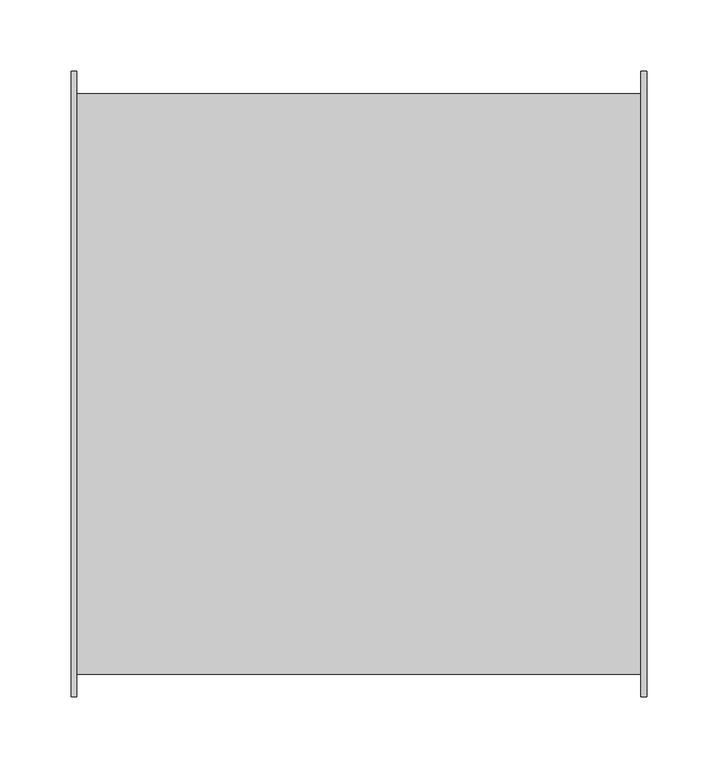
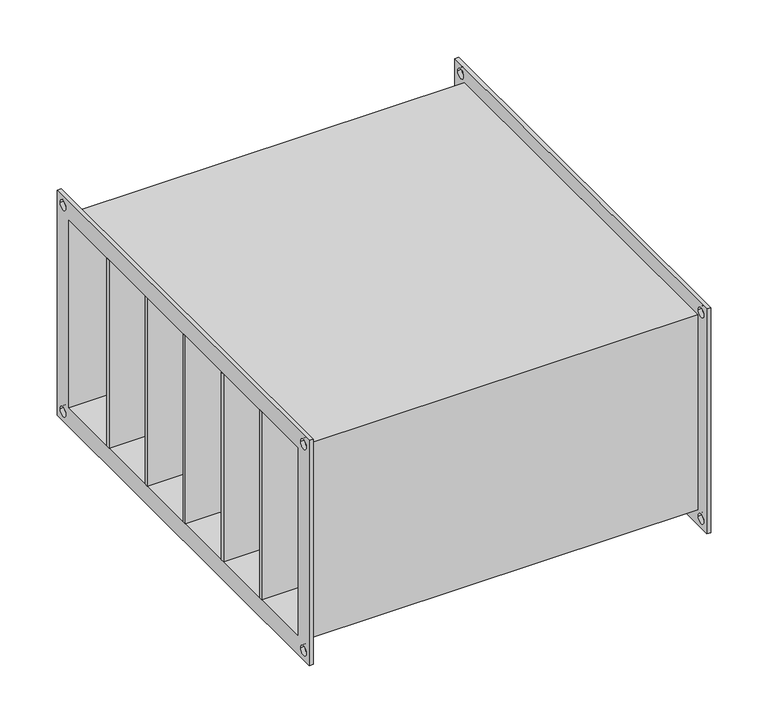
"""IFC4 building model written with IfcOpenShell, lengths in millimetres: damper geometry, СВ_ФильтрКарманныйУкороченный_КанальныйПрямоугольный_200-1000_SFPKU : SFPKU-400x200."""

import ifcopenshell
import ifcopenshell.guid

model = None  # the IFC model being written
_history = None  # IfcOwnerHistory: only IFC2X3 demands one
_inside = {}  # id of a spatial element -> (the spatial element, [elements in it])
_under = {}  # id of a project, library or spatial element -> (it, [spatial elements below it])
_declared = {}  # id of a project -> (the project, [libraries it declares])
_typed = {}  # id of a type object -> (the type object, [elements of that type])
_made_of = {}  # id of a material, layer set ... -> (it, [elements and type objects made of it])


def new_model(schema):
    """Start an empty IFC model of exactly this schema.

    Asked for "IFC4X3", IfcOpenShell would pick the latest addendum, in which some entities
    have other attributes; the version numbers below select the first issue.
    IFC2X3 requires an IfcOwnerHistory on every rooted entity: one is made here for all.
    """
    global model, _history
    if schema == "IFC4X3":
        model = ifcopenshell.file(schema_version=(4, 3, 0, 0))
    else:
        model = ifcopenshell.file(schema=schema)
    _inside.clear()
    _under.clear()
    _declared.clear()
    _typed.clear()
    _made_of.clear()
    _history = None
    if model.schema == "IFC2X3":
        org = make("IfcOrganization", Name="unknown")
        user = make(
            "IfcPersonAndOrganization",
            ThePerson=make("IfcPerson", FamilyName="unknown"),
            TheOrganization=org,
        )
        app = make(
            "IfcApplication",
            ApplicationDeveloper=org,
            Version="unknown",
            ApplicationFullName="unknown",
            ApplicationIdentifier="unknown",
        )
        _history = make(
            "IfcOwnerHistory",
            OwningUser=user,
            OwningApplication=app,
            ChangeAction="ADDED",
            CreationDate=0,
        )
    return model


def make(cls, **values):
    """One entity of the class cls with the attributes given. An attribute that is None is left unset."""
    return model.create_entity(
        cls, **{name: value for name, value in values.items() if value is not None}
    )


def rooted(cls, **values):
    """An entity with a GlobalId (a new one), such as an element, a storey or a relation."""
    return make(cls, GlobalId=ifcopenshell.guid.new(), OwnerHistory=_history, **values)


def si_unit(unit_type, name, prefix=None):
    """IfcSIUnit, for example si_unit("LENGTHUNIT", "METRE", prefix="MILLI")."""
    return make("IfcSIUnit", UnitType=unit_type, Prefix=prefix, Name=name)


def assignment(units):
    """IfcUnitAssignment: the units of a project."""
    return None if units is None else make("IfcUnitAssignment", Units=units)


def point(xyz):
    """IfcCartesianPoint."""
    return None if xyz is None else make("IfcCartesianPoint", Coordinates=xyz)


def direction(xyz):
    """IfcDirection."""
    return None if xyz is None else make("IfcDirection", DirectionRatios=xyz)


def frame(location, z_axis=None, x_axis=None):
    """IfcAxis2Placement3D, a coordinate frame: its origin and axes. An axis left out is left unset."""
    return make(
        "IfcAxis2Placement3D",
        Location=point(location),
        Axis=direction(z_axis),
        RefDirection=direction(x_axis),
    )


def origin():
    """The frame at (0, 0, 0) with its axes left unset."""
    return frame((0.0, 0.0, 0.0))


def place(relative_to, where):
    """IfcLocalPlacement: puts the frame where relative to a parent placement (None: the world)."""
    return make(
        "IfcLocalPlacement", PlacementRelTo=relative_to, RelativePlacement=where
    )


def context(
    kind, dimensions, precision=None, world=None, true_north=None, identifier=None
):
    """IfcGeometricRepresentationContext, for example the 3D "Model" context."""
    return make(
        "IfcGeometricRepresentationContext",
        ContextIdentifier=identifier,
        ContextType=kind,
        CoordinateSpaceDimension=dimensions,
        Precision=precision,
        WorldCoordinateSystem=world,
        TrueNorth=true_north,
    )


def project(units=None, contexts=None):
    """IfcProject with its units and contexts."""
    return rooted(
        "IfcProject",
        Name="project",
        RepresentationContexts=contexts,
        UnitsInContext=assignment(units),
    )


def spatial(cls, under=None, at=None, **own):
    """A site, building, storey or space (cls), placed at a placement, below another one or the project."""
    s = rooted(cls, ObjectPlacement=at, **own)
    if under is not None:
        _under.setdefault(under.id(), (under, []))[1].append(s)
    return s


def polyline(points):
    """IfcPolyline through the points."""
    return make("IfcPolyline", Points=[point(p) for p in points])


def circle_curve(where, radius):
    """IfcCircle in the frame where."""
    return make("IfcCircle", Position=where, Radius=radius)


def outline(outer, holes=None, kind="AREA"):
    """IfcArbitraryClosedProfileDef: a profile drawn as a closed curve; with holes, ...WithVoids."""
    if holes is None:
        return make("IfcArbitraryClosedProfileDef", ProfileType=kind, OuterCurve=outer)
    return make(
        "IfcArbitraryProfileDefWithVoids",
        ProfileType=kind,
        OuterCurve=outer,
        InnerCurves=holes,
    )


def extrude(swept, where, along, depth):
    """IfcExtrudedAreaSolid: the profile swept, set in the frame where, extruded along a direction by depth."""
    return make(
        "IfcExtrudedAreaSolid",
        SweptArea=swept,
        Position=where,
        ExtrudedDirection=direction(along),
        Depth=depth,
    )


def shape(context_of_items, identifier, shape_type, items):
    """IfcShapeRepresentation: the items that make up one representation, for example the "Body"."""
    return make(
        "IfcShapeRepresentation",
        ContextOfItems=context_of_items,
        RepresentationIdentifier=identifier,
        RepresentationType=shape_type,
        Items=items,
    )


def source(mapping_origin, context_of_items, identifier, shape_type, items):
    """IfcRepresentationMap: a shape defined once, which mapped items show again and again."""
    return make(
        "IfcRepresentationMap",
        MappingOrigin=mapping_origin,
        MappedRepresentation=shape(context_of_items, identifier, shape_type, items),
    )


def transform(
    local_origin,
    x_axis=None,
    y_axis=None,
    z_axis=None,
    scale=None,
    scale2=None,
    scale3=None,
    uniform=True,
):
    """IfcCartesianTransformationOperator3D, or its non-uniform kind. x_axis, y_axis, z_axis: its Axis1, 2, 3."""
    if uniform:
        return make(
            "IfcCartesianTransformationOperator3D",
            Axis1=direction(x_axis),
            Axis2=direction(y_axis),
            LocalOrigin=point(local_origin),
            Scale=scale,
            Axis3=direction(z_axis),
        )
    return make(
        "IfcCartesianTransformationOperator3DnonUniform",
        Axis1=direction(x_axis),
        Axis2=direction(y_axis),
        LocalOrigin=point(local_origin),
        Scale=scale,
        Axis3=direction(z_axis),
        Scale2=scale2,
        Scale3=scale3,
    )


def mapped(mapping_source, mapping_target):
    """IfcMappedItem: shows the shape of a source again, moved by a transform."""
    return make(
        "IfcMappedItem", MappingSource=mapping_source, MappingTarget=mapping_target
    )


def made_of(thing, what):
    """Note that an element or type object is made of a material, layer set ...; save() writes the relation."""
    if what is not None:
        _made_of.setdefault(what.id(), (what, []))[1].append(thing)
    return thing


def element(
    cls,
    number,
    at=None,
    inside=None,
    cuts=None,
    type_object=None,
    material=None,
    context=None,
    identifier="Body",
    shape_type=None,
    held_by="IfcProductDefinitionShape",
    body=None,
    shapes=None,
    **own,
):
    """One element of the class cls, such as IfcWall. Its Tag is "e" and its number.

    at: its placement. inside: the storey or other place that contains it. cuts: it is an
    opening in that element (IfcRelVoidsElement). A single representation is given by context,
    identifier, shape_type and body (its items); several are given by shapes. held_by: the class
    of the entity that holds the representations. save() writes the other relations.
    """
    e = rooted(cls, Tag="e%d" % number, ObjectPlacement=at, **own)
    if body is not None:
        shapes = [shape(context, identifier, shape_type, body)]
    if shapes is not None:
        e.Representation = make(held_by, Representations=shapes)
    if inside is not None:
        _inside.setdefault(inside.id(), (inside, []))[1].append(e)
    if cuts is not None:
        rooted(
            "IfcRelVoidsElement", RelatingBuildingElement=cuts, RelatedOpeningElement=e
        )
    if type_object is not None:
        _typed.setdefault(type_object.id(), (type_object, []))[1].append(e)
    return made_of(e, material)


def aggregate(whole, parts):
    """IfcRelAggregates: a whole, such as a stair, and the parts it consists of."""
    return rooted("IfcRelAggregates", RelatingObject=whole, RelatedObjects=parts)


def save(model, path):
    """Write the relations noted so far, then the file.

    IfcRelAggregates (storeys below a building ...), IfcRelContainedInSpatialStructure (elements
    in a storey), IfcRelDefinesByType, IfcRelAssociatesMaterial and IfcRelDeclares: one each for
    every whole, place, type object, material and project.
    """
    for whole, parts in _under.values():
        aggregate(whole, parts)
    for where, things in _inside.values():
        rooted(
            "IfcRelContainedInSpatialStructure",
            RelatedElements=things,
            RelatingStructure=where,
        )
    for kind, things in _typed.values():
        rooted("IfcRelDefinesByType", RelatedObjects=things, RelatingType=kind)
    for what, things in _made_of.values():
        rooted("IfcRelAssociatesMaterial", RelatedObjects=things, RelatingMaterial=what)
    for by, libraries in _declared.values():
        rooted("IfcRelDeclares", RelatingContext=by, RelatedDefinitions=libraries)
    model.write(path)


def plane_surface(at):
    """IfcPlane: the flat surface through the origin of the frame at, square to its z axis."""
    return make("IfcPlane", Position=at)


def revolved_surface(curve, axis_point, axis_direction):
    """IfcSurfaceOfRevolution: the curve turned about the line through axis_point along axis_direction."""
    return make(
        "IfcSurfaceOfRevolution",
        SweptCurve=make("IfcArbitraryOpenProfileDef", ProfileType="CURVE", Curve=curve),
        AxisPosition=make("IfcAxis1Placement", Location=point(axis_point), Axis=direction(axis_direction)),
    )


def advanced_brep(points, edges, surfaces, faces):
    """IfcAdvancedBrep: a solid bounded by faces that lie on surfaces and meet in shared edges.

    An edge is (start, end): straight between two places in points (the first is 0);
    or (start, end, curve); or (start, end, curve, False) where it runs against its curve.
    A face is (place in surfaces, loops), or (place, loops, False) where it looks against
    its surface's normal. A loop lists edges by number (the first is 1), with a minus sign
    where the edge is run from its end to its start. The first loop is the outer one.
    """
    corners = [point(p) for p in points]
    vertices = [make("IfcVertexPoint", VertexGeometry=c) for c in corners]
    made = []
    for start, end, *more in edges:
        made.append(
            make(
                "IfcEdgeCurve",
                EdgeStart=vertices[start],
                EdgeEnd=vertices[end],
                EdgeGeometry=more[0] if more else make("IfcPolyline", Points=[corners[start], corners[end]]),
                SameSense=more[1] if len(more) > 1 else True,
            )
        )
    hull = []
    for where, loops, *sense in faces:
        bounds = []
        for j, loop in enumerate(loops):
            ring = [make("IfcOrientedEdge", EdgeElement=made[abs(k) - 1], Orientation=k > 0) for k in loop]
            bounds.append(
                make(
                    "IfcFaceOuterBound" if j == 0 else "IfcFaceBound",
                    Bound=make("IfcEdgeLoop", EdgeList=ring),
                    Orientation=True,
                )
            )
        hull.append(make("IfcAdvancedFace", Bounds=bounds, FaceSurface=surfaces[where], SameSense=sense[0] if sense else True))
    return make("IfcAdvancedBrep", Outer=make("IfcClosedShell", CfsFaces=hull))


def damper_48062f46(model_context):
    return source(origin(), model_context, "Body", "SolidModel", [
        extrude(outline(polyline([(202.5, 133.3333333), (202.5, 129.3333333), (-202.5, 129.3333333), (-202.5, 133.3333333), (202.5, 133.3333333)])), frame((0.0, 0.0, -100.0), z_axis=(0.0, 0.0, 1.0), x_axis=(1.0, 0.0, 0.0)), (0.0, 0.0, 1.0), 200.0),
        extrude(outline(polyline([(202.5, 66.6666667), (202.5, 62.6666667), (-202.5, 62.6666667), (-202.5, 66.6666667), (202.5, 66.6666667)])), frame((0.0, 0.0, -100.0), z_axis=(0.0, 0.0, 1.0), x_axis=(1.0, 0.0, 0.0)), (0.0, 0.0, 1.0), 200.0),
        extrude(outline(polyline([(202.5, 0.0), (202.5, -4.0), (-202.5, -4.0), (-202.5, 0.0), (202.5, 0.0)])), frame((0.0, 0.0, -100.0), z_axis=(0.0, 0.0, 1.0), x_axis=(1.0, 0.0, 0.0)), (0.0, 0.0, 1.0), 200.0),
        extrude(outline(polyline([(202.5, -66.6666667), (202.5, -70.6666667), (-202.5, -70.6666667), (-202.5, -66.6666667), (202.5, -66.6666667)])), frame((0.0, 0.0, -100.0), z_axis=(0.0, 0.0, 1.0), x_axis=(1.0, 0.0, 0.0)), (0.0, 0.0, 1.0), 200.0),
        extrude(outline(polyline([(202.5, -133.3333333), (202.5, -137.3333333), (-202.5, -137.3333333), (-202.5, -133.3333333), (202.5, -133.3333333)])), frame((0.0, 0.0, -100.0), z_axis=(0.0, 0.0, 1.0), x_axis=(1.0, 0.0, 0.0)), (0.0, 0.0, 1.0), 200.0),
        advanced_brep(
        [(198.5, -204.0, 104.0), (-198.5, -204.0, 104.0), (-198.5, -204.0, -104.0), (198.5, -204.0, -104.0), (-198.5, 204.0, -104.0), (198.5, 204.0, -104.0), (-198.5, 204.0, 104.0), (198.5, 204.0, 104.0), (-202.5, -220.0, 120.0), (-202.5, 220.0, 120.0), (-202.5, 220.0, -120.0), (-202.5, -220.0, -120.0), (-202.5, -200.0, 100.0), (-202.5, -200.0, -100.0), (-202.5, 200.0, -100.0), (-202.5, 200.0, 100.0), (-202.5, 205.0, 110.0), (-202.5, 215.0, 110.0), (-202.5, -215.0, 110.0), (-202.5, -205.0, 110.0), (-202.5, -215.0, -110.0), (-202.5, -205.0, -110.0), (-202.5, 205.0, -110.0), (-202.5, 215.0, -110.0), (-198.5, -220.0, 120.0), (-198.5, -220.0, -120.0), (-198.5, 220.0, -120.0), (-198.5, 220.0, 120.0), (-198.5, 215.0, 110.0), (-198.5, 205.0, 110.0), (-198.5, -205.0, 110.0), (-198.5, -215.0, 110.0), (-198.5, -205.0, -110.0), (-198.5, -215.0, -110.0), (-198.5, 215.0, -110.0), (-198.5, 205.0, -110.0), (202.5, 200.0, 100.0), (202.5, -200.0, 100.0), (202.5, 200.0, -100.0), (202.5, -200.0, -100.0), (198.5, 220.0, 120.0), (198.5, 220.0, -120.0), (198.5, -220.0, -120.0), (198.5, -220.0, 120.0), (198.5, 205.0, 110.0), (198.5, 215.0, 110.0), (198.5, -215.0, 110.0), (198.5, -205.0, 110.0), (198.5, -215.0, -110.0), (198.5, -205.0, -110.0), (198.5, 205.0, -110.0), (198.5, 215.0, -110.0), (202.5, 220.0, 120.0), (202.5, -220.0, 120.0), (202.5, -220.0, -120.0), (202.5, 220.0, -120.0), (202.5, 215.0, 110.0), (202.5, 205.0, 110.0), (202.5, -205.0, 110.0), (202.5, -215.0, 110.0), (202.5, -205.0, -110.0), (202.5, -215.0, -110.0), (202.5, 215.0, -110.0), (202.5, 205.0, -110.0)],
        [
            (0, 1),
            (1, 2),
            (2, 3),
            (3, 0),
            (2, 4),
            (4, 5),
            (5, 3),
            (4, 6),
            (6, 7),
            (7, 5),
            (0, 7),
            (6, 1),
            (8, 9),
            (9, 10),
            (10, 11),
            (11, 8),
            (12, 13),
            (13, 14),
            (14, 15),
            (15, 12),
            (16, 17, circle_curve(frame((-202.5, 210.0, 110.0), z_axis=(1.0, 0.0, 0.0), x_axis=(0.0, 1.0, 0.0)), 5.0)),
            (17, 16, circle_curve(frame((-202.5, 210.0, 110.0), z_axis=(1.0, 0.0, 0.0), x_axis=(0.0, 1.0, 0.0)), 5.0)),
            (18, 19, circle_curve(frame((-202.5, -210.0, 110.0), z_axis=(1.0, 0.0, 0.0), x_axis=(0.0, 1.0, 0.0)), 5.0)),
            (19, 18, circle_curve(frame((-202.5, -210.0, 110.0), z_axis=(1.0, 0.0, 0.0), x_axis=(0.0, 1.0, 0.0)), 5.0)),
            (20, 21, circle_curve(frame((-202.5, -210.0, -110.0), z_axis=(1.0, 0.0, 0.0), x_axis=(0.0, 1.0, 0.0)), 5.0)),
            (21, 20, circle_curve(frame((-202.5, -210.0, -110.0), z_axis=(1.0, 0.0, 0.0), x_axis=(0.0, 1.0, 0.0)), 5.0)),
            (22, 23, circle_curve(frame((-202.5, 210.0, -110.0), z_axis=(1.0, 0.0, 0.0), x_axis=(0.0, 1.0, 0.0)), 5.0)),
            (23, 22, circle_curve(frame((-202.5, 210.0, -110.0), z_axis=(1.0, 0.0, 0.0), x_axis=(0.0, 1.0, 0.0)), 5.0)),
            (24, 25),
            (25, 26),
            (26, 27),
            (27, 24),
            (28, 29, circle_curve(frame((-198.5, 210.0, 110.0), z_axis=(-1.0, 0.0, 0.0), x_axis=(0.0, 1.0, 0.0)), 5.0)),
            (29, 28, circle_curve(frame((-198.5, 210.0, 110.0), z_axis=(-1.0, 0.0, 0.0), x_axis=(0.0, 1.0, 0.0)), 5.0)),
            (30, 31, circle_curve(frame((-198.5, -210.0, 110.0), z_axis=(-1.0, 0.0, 0.0), x_axis=(0.0, 1.0, 0.0)), 5.0)),
            (31, 30, circle_curve(frame((-198.5, -210.0, 110.0), z_axis=(-1.0, 0.0, 0.0), x_axis=(0.0, 1.0, 0.0)), 5.0)),
            (32, 33, circle_curve(frame((-198.5, -210.0, -110.0), z_axis=(-1.0, 0.0, 0.0), x_axis=(0.0, 1.0, 0.0)), 5.0)),
            (33, 32, circle_curve(frame((-198.5, -210.0, -110.0), z_axis=(-1.0, 0.0, 0.0), x_axis=(0.0, 1.0, 0.0)), 5.0)),
            (34, 35, circle_curve(frame((-198.5, 210.0, -110.0), z_axis=(-1.0, 0.0, 0.0), x_axis=(0.0, 1.0, 0.0)), 5.0)),
            (35, 34, circle_curve(frame((-198.5, 210.0, -110.0), z_axis=(-1.0, 0.0, 0.0), x_axis=(0.0, 1.0, 0.0)), 5.0)),
            (11, 25),
            (24, 8),
            (10, 26),
            (9, 27),
            (15, 36),
            (36, 37),
            (37, 12),
            (14, 38),
            (38, 36),
            (13, 39),
            (39, 38),
            (37, 39),
            (40, 41),
            (41, 42),
            (42, 43),
            (43, 40),
            (44, 45, circle_curve(frame((198.5, 210.0, 110.0), z_axis=(1.0, 0.0, 0.0), x_axis=(0.0, 1.0, 0.0)), 5.0)),
            (45, 44, circle_curve(frame((198.5, 210.0, 110.0), z_axis=(1.0, 0.0, 0.0), x_axis=(0.0, 1.0, 0.0)), 5.0)),
            (46, 47, circle_curve(frame((198.5, -210.0, 110.0), z_axis=(1.0, 0.0, 0.0), x_axis=(0.0, 1.0, 0.0)), 5.0)),
            (47, 46, circle_curve(frame((198.5, -210.0, 110.0), z_axis=(1.0, 0.0, 0.0), x_axis=(0.0, 1.0, 0.0)), 5.0)),
            (48, 49, circle_curve(frame((198.5, -210.0, -110.0), z_axis=(1.0, 0.0, 0.0), x_axis=(0.0, 1.0, 0.0)), 5.0)),
            (49, 48, circle_curve(frame((198.5, -210.0, -110.0), z_axis=(1.0, 0.0, 0.0), x_axis=(0.0, 1.0, 0.0)), 5.0)),
            (50, 51, circle_curve(frame((198.5, 210.0, -110.0), z_axis=(1.0, 0.0, 0.0), x_axis=(0.0, 1.0, 0.0)), 5.0)),
            (51, 50, circle_curve(frame((198.5, 210.0, -110.0), z_axis=(1.0, 0.0, 0.0), x_axis=(0.0, 1.0, 0.0)), 5.0)),
            (52, 53),
            (53, 54),
            (54, 55),
            (55, 52),
            (56, 57, circle_curve(frame((202.5, 210.0, 110.0), z_axis=(-1.0, 0.0, 0.0), x_axis=(0.0, 1.0, 0.0)), 5.0)),
            (57, 56, circle_curve(frame((202.5, 210.0, 110.0), z_axis=(-1.0, 0.0, 0.0), x_axis=(0.0, 1.0, 0.0)), 5.0)),
            (58, 59, circle_curve(frame((202.5, -210.0, 110.0), z_axis=(-1.0, 0.0, 0.0), x_axis=(0.0, 1.0, 0.0)), 5.0)),
            (59, 58, circle_curve(frame((202.5, -210.0, 110.0), z_axis=(-1.0, 0.0, 0.0), x_axis=(0.0, 1.0, 0.0)), 5.0)),
            (60, 61, circle_curve(frame((202.5, -210.0, -110.0), z_axis=(-1.0, 0.0, 0.0), x_axis=(0.0, 1.0, 0.0)), 5.0)),
            (61, 60, circle_curve(frame((202.5, -210.0, -110.0), z_axis=(-1.0, 0.0, 0.0), x_axis=(0.0, 1.0, 0.0)), 5.0)),
            (62, 63, circle_curve(frame((202.5, 210.0, -110.0), z_axis=(-1.0, 0.0, 0.0), x_axis=(0.0, 1.0, 0.0)), 5.0)),
            (63, 62, circle_curve(frame((202.5, 210.0, -110.0), z_axis=(-1.0, 0.0, 0.0), x_axis=(0.0, 1.0, 0.0)), 5.0)),
            (43, 53),
            (52, 40),
            (42, 54),
            (41, 55),
            (16, 29),
            (28, 17),
            (44, 57),
            (56, 45),
            (18, 31),
            (30, 19),
            (46, 59),
            (58, 47),
            (20, 33),
            (32, 21),
            (48, 61),
            (60, 49),
            (22, 35),
            (34, 23),
            (50, 63),
            (62, 51),
        ],
        [
            plane_surface(frame((198.5, -204.0, 104.0), z_axis=(0.0, -1.0, 0.0), x_axis=(-1.0, 0.0, 0.0))),
            plane_surface(frame((198.5, -204.0, -104.0), z_axis=(0.0, 0.0, -1.0), x_axis=(-1.0, 0.0, 0.0))),
            plane_surface(frame((198.5, 204.0, -104.0), z_axis=(0.0, 1.0, 0.0), x_axis=(-1.0, 0.0, 0.0))),
            plane_surface(frame((198.5, 204.0, 104.0), z_axis=(0.0, 0.0, 1.0), x_axis=(-1.0, 0.0, 0.0))),
            plane_surface(frame((-202.5, -220.0, 120.0), z_axis=(-1.0, 0.0, 0.0), x_axis=(0.0, 0.0, 1.0))),
            plane_surface(frame((-198.5, -220.0, 120.0), z_axis=(1.0, 0.0, 0.0), x_axis=(0.0, 0.0, -1.0))),
            plane_surface(frame((-198.5, -220.0, 120.0), z_axis=(0.0, -1.0, 0.0), x_axis=(-1.0, 0.0, 0.0))),
            plane_surface(frame((-198.5, -220.0, -120.0), z_axis=(0.0, 0.0, -1.0), x_axis=(-1.0, 0.0, 0.0))),
            plane_surface(frame((-198.5, 220.0, -120.0), z_axis=(0.0, 1.0, 0.0), x_axis=(-1.0, 0.0, 0.0))),
            plane_surface(frame((-198.5, 220.0, 120.0), z_axis=(0.0, 0.0, 1.0), x_axis=(-1.0, 0.0, 0.0))),
            plane_surface(frame((-198.5, -200.0, 100.0), z_axis=(0.0, 0.0, -1.0), x_axis=(-1.0, 0.0, 0.0))),
            plane_surface(frame((-198.5, 200.0, 100.0), z_axis=(0.0, -1.0, 0.0), x_axis=(-1.0, 0.0, 0.0))),
            plane_surface(frame((-198.5, 200.0, -100.0), z_axis=(0.0, 0.0, 1.0), x_axis=(-1.0, 0.0, 0.0))),
            plane_surface(frame((-198.5, -200.0, -100.0), z_axis=(0.0, 1.0, 0.0), x_axis=(-1.0, 0.0, 0.0))),
            plane_surface(frame((198.5, 200.0, -100.0), z_axis=(-1.0, 0.0, 0.0), x_axis=(0.0, 0.0, 1.0))),
            plane_surface(frame((202.5, 200.0, -100.0), z_axis=(1.0, 0.0, 0.0), x_axis=(0.0, 0.0, -1.0))),
            plane_surface(frame((202.5, 220.0, 120.0), z_axis=(0.0, 0.0, 1.0), x_axis=(-1.0, 0.0, 0.0))),
            plane_surface(frame((202.5, -220.0, 120.0), z_axis=(0.0, -1.0, 0.0), x_axis=(-1.0, 0.0, 0.0))),
            plane_surface(frame((202.5, -220.0, -120.0), z_axis=(0.0, 0.0, -1.0), x_axis=(-1.0, 0.0, 0.0))),
            plane_surface(frame((202.5, 220.0, -120.0), z_axis=(0.0, 1.0, 0.0), x_axis=(-1.0, 0.0, 0.0))),
            revolved_surface(polyline([(-198.5, 215.0, 110.0), (-202.5, 215.0, 110.0)]), (-202.5, 210.0, 110.0), (1.0, 0.0, 0.0)),
            revolved_surface(polyline([(202.5, 215.0, 110.0), (198.5, 215.0, 110.0)]), (-202.5, 210.0, 110.0), (1.0, 0.0, 0.0)),
            revolved_surface(polyline([(-198.5, -205.0, 110.0), (-202.5, -205.0, 110.0)]), (0.0, -210.0, 110.0), (1.0, 0.0, 0.0)),
            revolved_surface(polyline([(202.5, -205.0, 110.0), (198.5, -205.0, 110.0)]), (0.0, -210.0, 110.0), (1.0, 0.0, 0.0)),
            revolved_surface(polyline([(-198.5, -205.0, -110.0), (-202.5, -205.0, -110.0)]), (0.0, -210.0, -110.0), (1.0, 0.0, 0.0)),
            revolved_surface(polyline([(202.5, -205.0, -110.0), (198.5, -205.0, -110.0)]), (0.0, -210.0, -110.0), (1.0, 0.0, 0.0)),
            revolved_surface(polyline([(-198.5, 215.0, -110.0), (-202.5, 215.0, -110.0)]), (0.0, 210.0, -110.0), (1.0, 0.0, 0.0)),
            revolved_surface(polyline([(202.5, 215.0, -110.0), (198.5, 215.0, -110.0)]), (0.0, 210.0, -110.0), (1.0, 0.0, 0.0)),
        ],
        [
            (0, [[1, 2, 3, 4]]),
            (1, [[-3, 5, 6, 7]]),
            (2, [[-6, 8, 9, 10]]),
            (3, [[-1, 11, -9, 12]]),
            (4, [[13, 14, 15, 16], [17, 18, 19, 20], [21, 22], [23, 24], [25, 26], [27, 28]]),
            (5, [[29, 30, 31, 32], [-2, -12, -8, -5], [33, 34], [35, 36], [37, 38], [39, 40]]),
            (6, [[-16, 41, -29, 42]]),
            (7, [[-15, 43, -30, -41]]),
            (8, [[-14, 44, -31, -43]]),
            (9, [[-13, -42, -32, -44]]),
            (10, [[-20, 45, 46, 47]]),
            (11, [[-45, -19, 48, 49]]),
            (12, [[-48, -18, 50, 51]]),
            (13, [[-50, -17, -47, 52]]),
            (14, [[53, 54, 55, 56], [-4, -7, -10, -11], [57, 58], [59, 60], [61, 62], [63, 64]]),
            (15, [[65, 66, 67, 68], [-49, -51, -52, -46], [69, 70], [71, 72], [73, 74], [75, 76]]),
            (16, [[-56, 77, -65, 78]]),
            (17, [[-55, 79, -66, -77]]),
            (18, [[-54, 80, -67, -79]]),
            (19, [[-53, -78, -68, -80]]),
            (20, [[81, -33, 82, -21]]),
            (21, [[83, -69, 84, -57]]),
            (20, [[-81, -22, -82, -34]]),
            (21, [[-83, -58, -84, -70]]),
            (22, [[85, -35, 86, -23]]),
            (23, [[87, -71, 88, -59]]),
            (22, [[-85, -24, -86, -36]]),
            (23, [[-87, -60, -88, -72]]),
            (24, [[89, -37, 90, -25]]),
            (25, [[91, -73, 92, -61]]),
            (24, [[-89, -26, -90, -38]]),
            (25, [[-91, -62, -92, -74]]),
            (26, [[93, -39, 94, -27]]),
            (27, [[95, -75, 96, -63]]),
            (26, [[-93, -28, -94, -40]]),
            (27, [[-95, -64, -96, -76]]),
        ],
    ),
    ])


if __name__ == "__main__":
    model = new_model("IFC4")
    model_context = context("Model", 3, world=origin())
    ifc_project = project(units=[si_unit("LENGTHUNIT", "METRE", prefix="MILLI")], contexts=[model_context])
    site = spatial("IfcSite", under=ifc_project)
    building = spatial("IfcBuilding", under=site)
    placement = place(None, origin())
    damper_shape = damper_48062f46(model_context)
    element("IfcDamper", 1, ObjectType="СВ_ФильтрКарманныйУкороченный_КанальныйПрямоугольный_200-1000_SFPKU : SFPKU-400x200", at=placement, inside=building, context=model_context, shape_type="MappedRepresentation", body=[
        mapped(damper_shape, transform((0.0, 0.0, 0.0), x_axis=(1.0, 0.0, 0.0), y_axis=(0.0, 1.0, 0.0), z_axis=(0.0, 0.0, 1.0))),
    ])
    save(model, "model.ifc")
